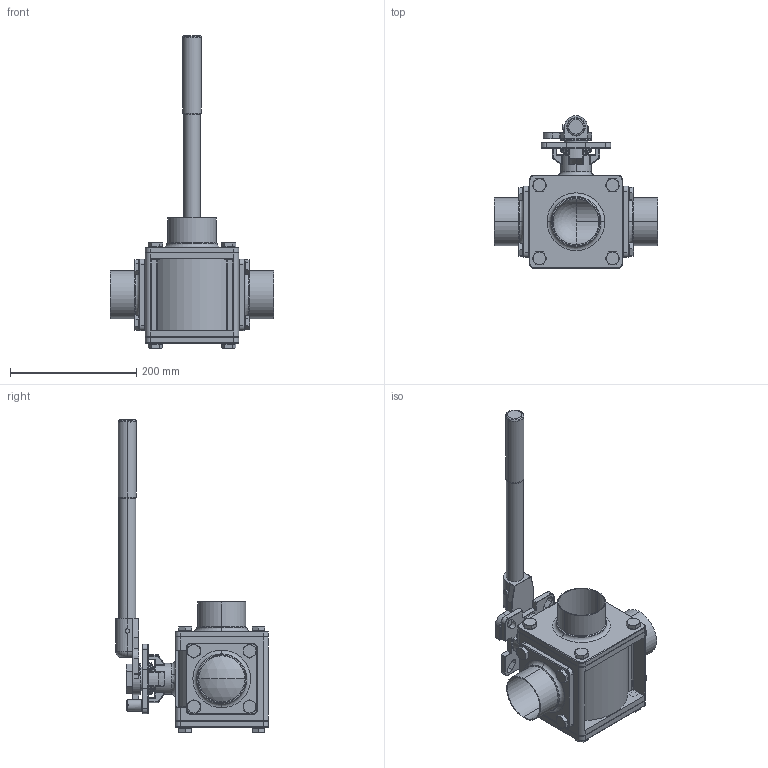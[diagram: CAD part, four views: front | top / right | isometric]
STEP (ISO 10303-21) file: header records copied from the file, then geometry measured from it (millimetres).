
FILE_DESCRIPTION (( 'STEP AP203' ), '1' );
FILE_NAME ('E93WWW-63.0.STEP', '2019-07-02T02:23:14', ( '' ), ( '' ), 'SwSTEP 2.0', 'SolidWorks 2014', '' );
FILE_SCHEMA (( 'CONFIG_CONTROL_DESIGN' ));
Length unit declared in the file: millimetre
Products named in the file (27): 14.HANDLE2.5-4.0-3; 6.THRUST WASHER3.0-4.0; 7.O-RING3.0-4.0; 8.STEM PACKING3.0-4.0; 12.3WAY-NUT3.0-4.0; 22.SEAT-R-3.0; E93WWW-63.0; 16.BOLT3.0; 11.STOP PIN3.0-4.0; 5.GASKET3.0; 2.3WAY-CAP-W-3.0B; 9.RING3.0-4.0; 13.STEM3.0-4.0; 10.BEVEL WASHER3.0-4.0; 20.SEAT BACK3.0; 15.SPRING WASHER3.0; 17.LOCKING TAB3.0-4.0; 3.3WAY-BALL-3.0-L; 2.3WAY-CAP-W-3.0S; 1.3WAY-BODY3.0; 22.SEAT-L-3.0; 14.HANDLE3.0-4.0-2; 21.PLAIN WASHER3.0-4.0; 18.THINNER NUT3.0-4.0; 19.3WAY-CAP3.0; 4.SEAT1-3.0; 14.HANDLE3.0-4.0-1
Assembly tree (60 placements, depth 2):
  E93WWW-63.0
    1.3WAY-BODY3.0
    13.STEM3.0-4.0
    6.THRUST WASHER3.0-4.0
    7.O-RING3.0-4.0
    4.SEAT1-3.0  x2
    5.GASKET3.0  x2
    22.SEAT-L-3.0
    22.SEAT-R-3.0
    20.SEAT BACK3.0
    19.3WAY-CAP3.0
    16.BOLT3.0  x16
    15.SPRING WASHER3.0  x16
    11.STOP PIN3.0-4.0
    8.STEM PACKING3.0-4.0
    9.RING3.0-4.0
    10.BEVEL WASHER3.0-4.0  x2
    18.THINNER NUT3.0-4.0
    17.LOCKING TAB3.0-4.0
    21.PLAIN WASHER3.0-4.0
    14.HANDLE3.0-4.0-1
    14.HANDLE3.0-4.0-2
    14.HANDLE2.5-4.0-3
    12.3WAY-NUT3.0-4.0
    2.3WAY-CAP-W-3.0S  x2
    2.3WAY-CAP-W-3.0B
    3.3WAY-BALL-3.0-L
Bounding box: 260 x 242.39 x 495.7 mm (x, y, z)
Volume: 2999596 mm3; surface area: 797424.4 mm2
Topology: 61 solids, 61 shells, 1526 faces, 3446 edges, 2045 vertices
Faces by surface type: cylinder 566, plane 414, cone 248, torus 184, sphere 59, bspline 55
Entity records: 36954 total; most frequent: CARTESIAN_POINT 8597, DIRECTION 5642, ORIENTED_EDGE 4872, EDGE_CURVE 2436, AXIS2_PLACEMENT_3D 2382, VERTEX_POINT 1449, CIRCLE 1313, EDGE_LOOP 1175
